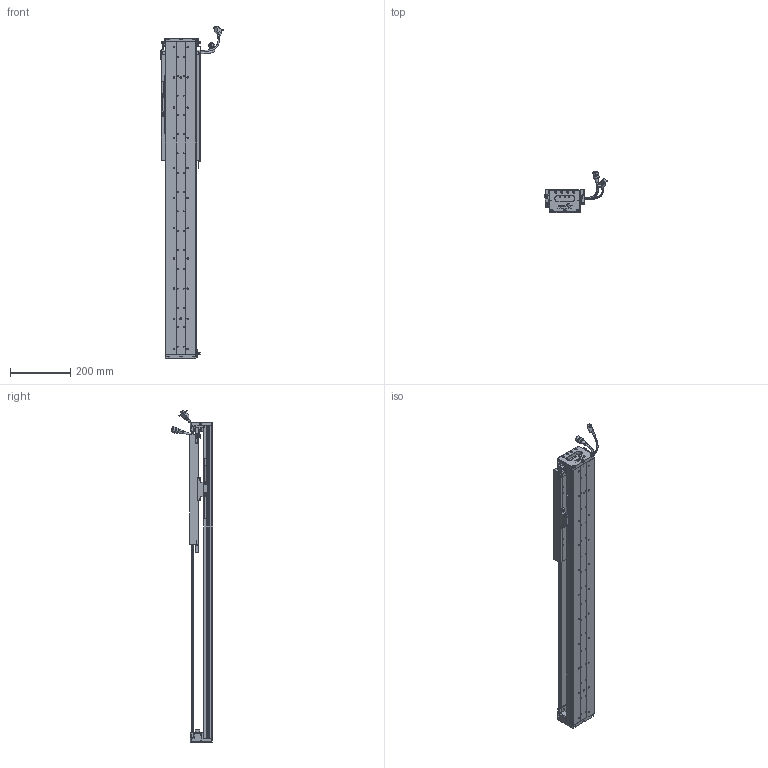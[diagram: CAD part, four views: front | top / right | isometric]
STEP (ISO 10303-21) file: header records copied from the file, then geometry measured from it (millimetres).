
FILE_DESCRIPTION (( 'STEP AP203' ), '1' );
FILE_NAME ('Z5-RY100D-1-L500-B-K.SLDASM_0600.step', '2021-05-17T03:32:31', ( '盈信电脑' ), ( '东莞市道滘镇水果街19号' ), 'SwSTEP 2.0', 'SolidWorks 2016', '' );
FILE_SCHEMA (( 'CONFIG_CONTROL_DESIGN' ));
Length unit declared in the file: millimetre
Products named in the file (36): PBU_SHEET; Z5-RY100D-1-L500-B-K.SLDASM_0600; SCREW-M1.7; Z5-RY100-L500詩湍90mm遵_0600; SCREW-M1.6-3; SEAL-Part-1; Z-RY100D詩湍狟揤裔; HARNESS; 140雄赽晤鎢ん堤盄; SCREW-M1.7-1; COVER-Part-1; 140蚥薯蝶輸; SCALE-Part-1; SCREW-M1.6-2; 覜茼ん672; COVER; PSLH080_PSLF2; SCALE-Part-2; HARNESS-Part-2; SEAL; Z5-RY100D-500-倰第菁釱_0600; SCALE; SCREW-M1.6; 榋妏寠巭燃_暯_M2_2; HOLDER0; Z-RY100D詩湍奻揤裔; LABEL-Part-1; Z-RY100D覜茼んえ; HARNESS-Part-1; 100-Z-臏賑輸盄裔(21遴); 080黍杅芛假蚾釱21遴; LABEL; Z5-RY100铝滑块（21款）; Z-100詩湍傷裔啣; SHIELDPLATE; SCREW-M1.6-1
Assembly tree (43 placements, depth 4):
  Z5-RY100D-1-L500-B-K.SLDASM_0600
    Z5-RY100D-500-倰第菁釱_0600
    Z5-RY100铝滑块（21款）
    PSLH080_PSLF2
      SCALE
        SCALE-Part-1
        SCALE-Part-2
      HARNESS
        HARNESS-Part-1
        HARNESS-Part-2
      LABEL
        LABEL-Part-1
      COVER
        COVER-Part-1
      SEAL
        SEAL-Part-1
      榋妏寠巭燃_暯_M2_2
      SHIELDPLATE
      SCREW-M1.7
      SCREW-M1.7-1
      PBU_SHEET
      SCREW-M1.6
      SCREW-M1.6-1
      SCREW-M1.6-2
      SCREW-M1.6-3
      HOLDER0
    080黍杅芛假蚾釱21遴
    Z-100詩湍傷裔啣  x2
    140蚥薯蝶輸  x2
    覜茼ん672  x3
    Z-RY100D覜茼んえ  x3
    100-Z-臏賑輸盄裔(21遴)
    140雄赽晤鎢ん堤盄
    Z5-RY100-L500詩湍90mm遵_0600
    Z-RY100D詩湍狟揤裔  x2
    Z-RY100D詩湍奻揤裔  x2
Bounding box: 205.84 x 136.11 x 1100.43 mm (x, y, z)
Volume: 2587716.9 mm3; surface area: 953551.7 mm2
Topology: 38 solids, 38 shells, 2603 faces, 6829 edges, 4320 vertices
Faces by surface type: cylinder 1130, plane 1125, cone 226, torus 69, bspline 53
Entity records: 70779 total; most frequent: CARTESIAN_POINT 14903, DIRECTION 11219, ORIENTED_EDGE 10538, EDGE_CURVE 5269, AXIS2_PLACEMENT_3D 4128, VERTEX_POINT 3388, LINE 2963, VECTOR 2963
